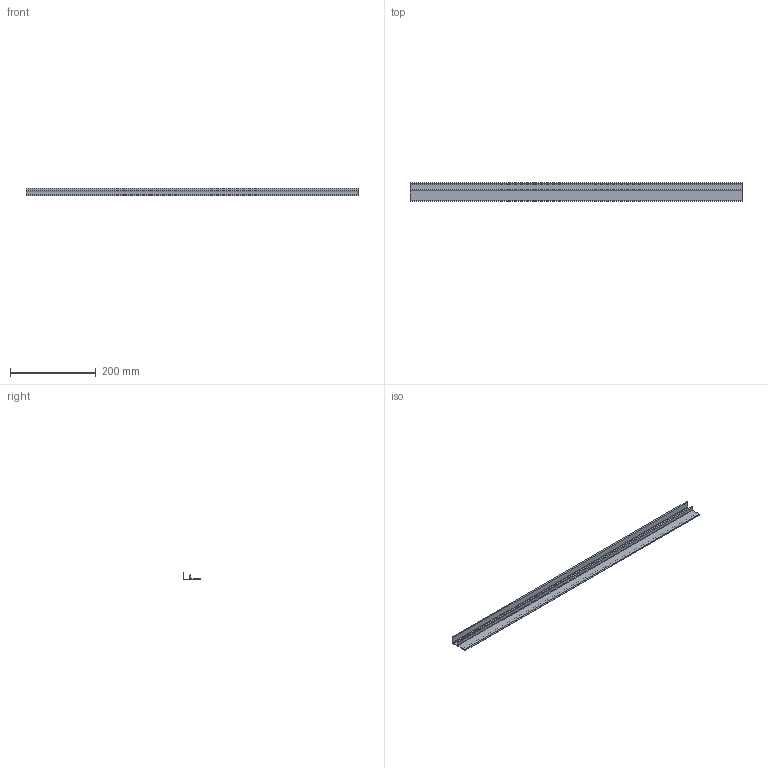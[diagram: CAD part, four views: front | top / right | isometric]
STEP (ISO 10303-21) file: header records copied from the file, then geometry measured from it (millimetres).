
FILE_DESCRIPTION( ( 'STEP AP214' ), '1' );
FILE_NAME( 'C:/Users/KOSH/Desktop/Same as task/Sliding folding/1058463.stp', '2021-06-30T06:27:40', ( '' ), ( '' ), ' ', 'PARTsolutions', ' ' );
FILE_SCHEMA( ( 'AUTOMOTIVE_DESIGN { 1 0 10303 214 1 1 1 1 }' ) );
Length unit declared in the file: millimetre
Products named in the file (1): _1058463
Bounding box: 775 x 42 x 18 mm (x, y, z)
Volume: 88120.2 mm3; surface area: 107269.5 mm2
Topology: 1 solids, 1 shells, 24 faces, 66 edges, 44 vertices
Faces by surface type: plane 18, cylinder 6
Entity records: 970 total; most frequent: CARTESIAN_POINT 135, ORIENTED_EDGE 132, DIRECTION 128, EDGE_CURVE 66, LINE 54, VECTOR 54, VERTEX_POINT 44, AXIS2_PLACEMENT_3D 37
